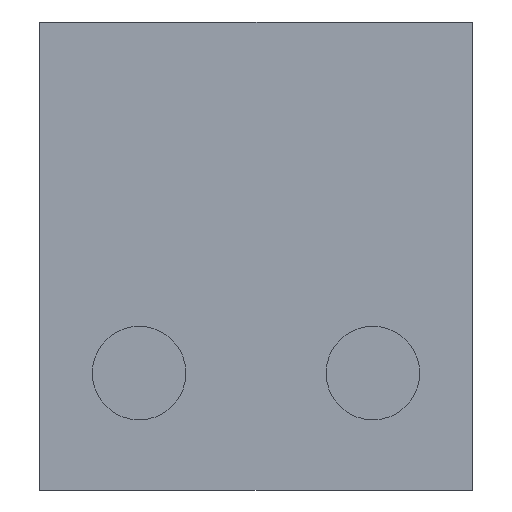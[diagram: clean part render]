
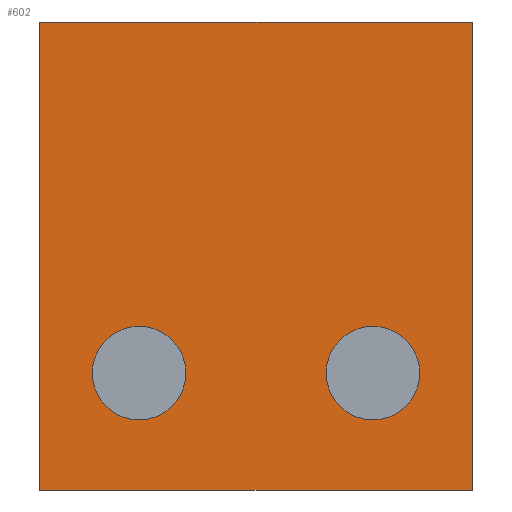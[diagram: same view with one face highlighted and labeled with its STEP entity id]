
A CAD part, left-side view. The second image highlights one B-rep face of the part: STEP entity #602.
In plain terms, the highlighted planar face has unit normal (-1, 0, 0).
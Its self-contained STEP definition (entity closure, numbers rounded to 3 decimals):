
#28=FACE_BOUND('',#110,.T.);
#29=FACE_BOUND('',#111,.T.);
#40=CIRCLE('',#651,1.6);
#45=CIRCLE('',#658,1.6);
#70=FACE_OUTER_BOUND('',#109,.T.);
#109=EDGE_LOOP('',(#482,#483,#484,#485));
#110=EDGE_LOOP('',(#486));
#111=EDGE_LOOP('',(#487));
#162=LINE('',#940,#227);
#169=LINE('',#959,#234);
#170=LINE('',#961,#235);
#171=LINE('',#962,#236);
#227=VECTOR('',#767,10.);
#234=VECTOR('',#788,10.);
#235=VECTOR('',#789,10.);
#236=VECTOR('',#790,10.);
#285=VERTEX_POINT('',#925);
#287=VERTEX_POINT('',#930);
#291=VERTEX_POINT('',#938);
#293=VERTEX_POINT('',#944);
#296=VERTEX_POINT('',#958);
#297=VERTEX_POINT('',#960);
#350=EDGE_CURVE('',#285,#285,#40,.T.);
#356=EDGE_CURVE('',#291,#287,#162,.T.);
#359=EDGE_CURVE('',#293,#293,#45,.T.);
#365=EDGE_CURVE('',#287,#296,#169,.T.);
#366=EDGE_CURVE('',#291,#297,#170,.T.);
#367=EDGE_CURVE('',#296,#297,#171,.F.);
#482=ORIENTED_EDGE('',*,*,#365,.F.);
#483=ORIENTED_EDGE('',*,*,#356,.F.);
#484=ORIENTED_EDGE('',*,*,#366,.T.);
#485=ORIENTED_EDGE('',*,*,#367,.F.);
#486=ORIENTED_EDGE('',*,*,#359,.F.);
#487=ORIENTED_EDGE('',*,*,#350,.F.);
#572=PLANE('',#662);
#602=ADVANCED_FACE('',(#70,#28,#29),#572,.T.);
#651=AXIS2_PLACEMENT_3D('',#927,#755,#756);
#658=AXIS2_PLACEMENT_3D('',#946,#773,#774);
#662=AXIS2_PLACEMENT_3D('',#957,#786,#787);
#755=DIRECTION('center_axis',(-1.,0.,0.));
#756=DIRECTION('ref_axis',(0.,1.,0.));
#767=DIRECTION('',(0.,0.,1.));
#773=DIRECTION('center_axis',(-1.,0.,0.));
#774=DIRECTION('ref_axis',(0.,1.,0.));
#786=DIRECTION('center_axis',(-1.,0.,0.));
#787=DIRECTION('ref_axis',(0.,0.,1.));
#788=DIRECTION('',(0.,-1.,0.));
#789=DIRECTION('',(0.,-1.,0.));
#790=DIRECTION('',(0.,0.,1.));
#925=CARTESIAN_POINT('',(41.226,9.8,53.584));
#927=CARTESIAN_POINT('Origin',(41.226,11.4,53.584));
#930=CARTESIAN_POINT('',(41.226,14.8,65.595));
#938=CARTESIAN_POINT('',(41.226,14.8,49.584));
#940=CARTESIAN_POINT('',(41.226,14.8,60.584));
#944=CARTESIAN_POINT('',(41.226,1.8,53.584));
#946=CARTESIAN_POINT('Origin',(41.226,3.4,53.584));
#957=CARTESIAN_POINT('Origin',(41.226,26.5,33.584));
#958=CARTESIAN_POINT('',(41.226,0.,65.595));
#959=CARTESIAN_POINT('',(41.226,-3.75,65.595));
#960=CARTESIAN_POINT('',(41.226,0.,49.584));
#961=CARTESIAN_POINT('',(41.226,35.,49.584));
#962=CARTESIAN_POINT('',(41.226,0.,46.084));
